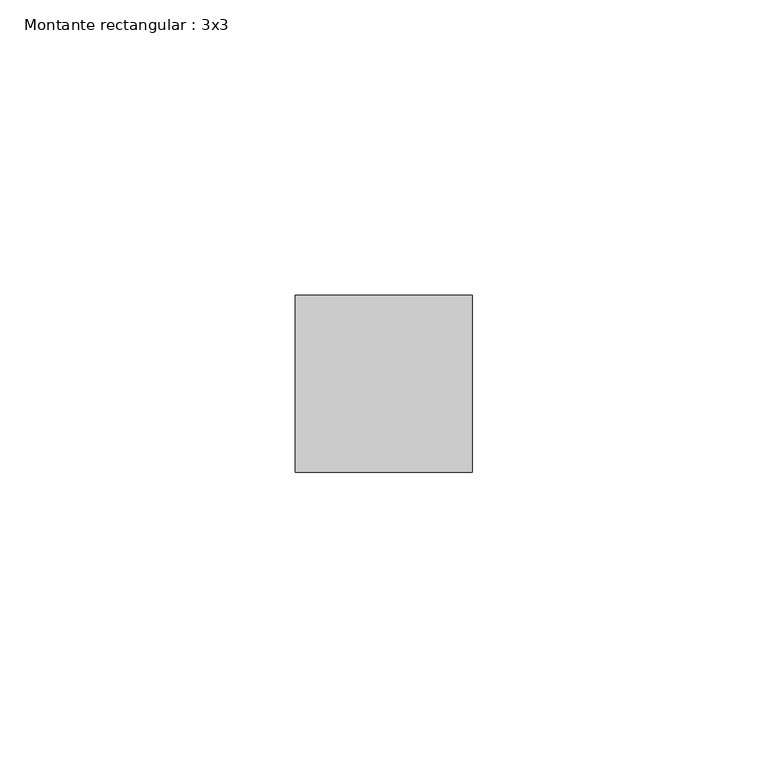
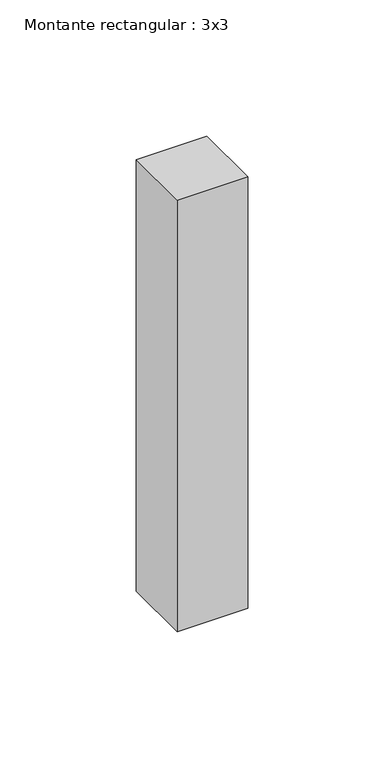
"""IFC4 building model written with IfcOpenShell, lengths in millimetres: member geometry, Montante rectangular : 3x3."""

from ifc_helpers import new_model, si_unit, frame, origin, place, context, project, spatial, polyline, outline, extrude, source, transform, mapped, element, save


def montante_rectangular_3x3_59b36da0(model_context):
    return source(origin(), model_context, "Body", "SweptSolid", [
        extrude(outline(polyline([(0.0, 15.0), (0.0, -15.0), (-30.0, -15.0), (-30.0, 15.0), (0.0, 15.0)])), frame((0.0, 0.0, -193.5064249), z_axis=(0.0, 0.0, 1.0), x_axis=(1.0, 0.0, 0.0)), (0.0, 0.0, 1.0), 193.5064249),
    ])


if __name__ == "__main__":
    model = new_model("IFC4")
    model_context = context("Model", 3, world=origin())
    ifc_project = project(units=[si_unit("LENGTHUNIT", "METRE", prefix="MILLI")], contexts=[model_context])
    site = spatial("IfcSite", under=ifc_project)
    building = spatial("IfcBuilding", under=site)
    placement = place(None, origin())
    montante_rectangular_3x3_shape = montante_rectangular_3x3_59b36da0(model_context)
    element("IfcMember", 1, ObjectType="Montante rectangular : 3x3", at=placement, inside=building, context=model_context, shape_type="MappedRepresentation", body=[
        mapped(montante_rectangular_3x3_shape, transform((0.0, 0.0, 0.0), x_axis=(1.0, 0.0, 0.0), y_axis=(0.0, 1.0, 0.0), z_axis=(0.0, 0.0, 1.0))),
    ])
    save(model, "model.ifc")
